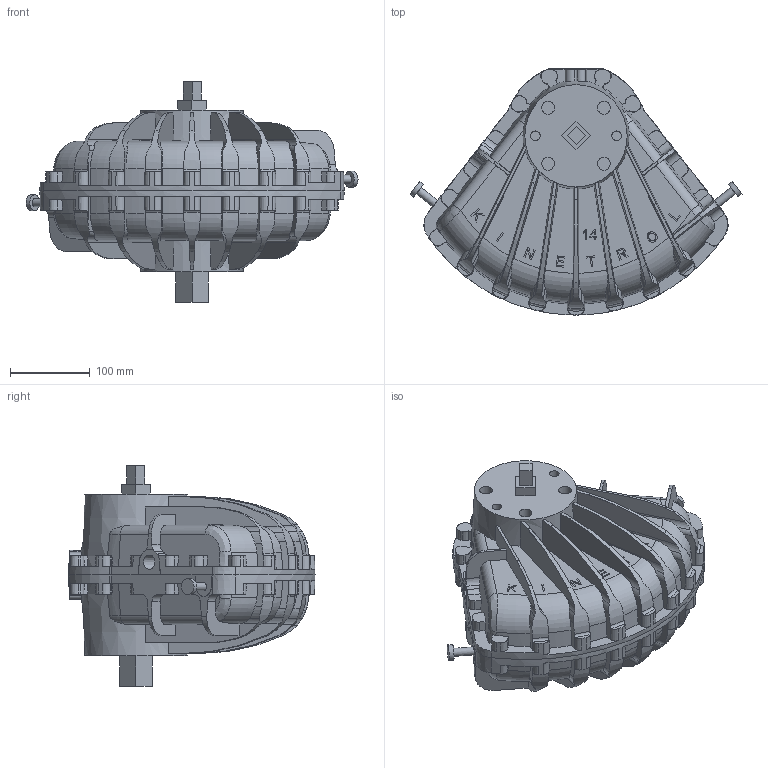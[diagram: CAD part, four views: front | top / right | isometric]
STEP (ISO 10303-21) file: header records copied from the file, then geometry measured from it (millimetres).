
FILE_DESCRIPTION( ( 'Unknown' ), '1' );
FILE_NAME( 'H:/3D Models for Customers/ACTUATOR MODELS OMO TO 300 (.pwd & .stp & .igs & .asm)/144-100/144-100 STEP.stp', 'Unknown', ( 'Unknown' ), ( 'Unknown' ), 'PSStep 10.1', 'Unknown', ' ' );
FILE_SCHEMA( ( 'AUTOMOTIVE_DESIGN { 1 0 10303 214 1 1 1 1 }' ) );
Length unit declared in the file: millimetre
Products named in the file (1): 144-100 simple
Bounding box: 415.03 x 307.8 x 275.65 mm (x, y, z)
Surface area: 443153.1 mm2 (no closed solid volume)
Topology: 0 solids, 867 shells, 867 faces, 4818 edges, 4798 vertices
Faces by surface type: plane 499, cone 122, cylinder 114, extrusion 60, torus 54, bspline 18
Full cylindrical faces by diameter (mm): 10 x2, 12 x4, 16 x8, 20 x2
Entity records: 60130 total; most frequent: CARTESIAN_POINT 19194, DIRECTION 6566, ORIENTED_EDGE 4792, EDGE_CURVE 4792, VERTEX_POINT 4792, VECTOR 2646, LINE 2586, AXIS2_PLACEMENT_3D 1960
